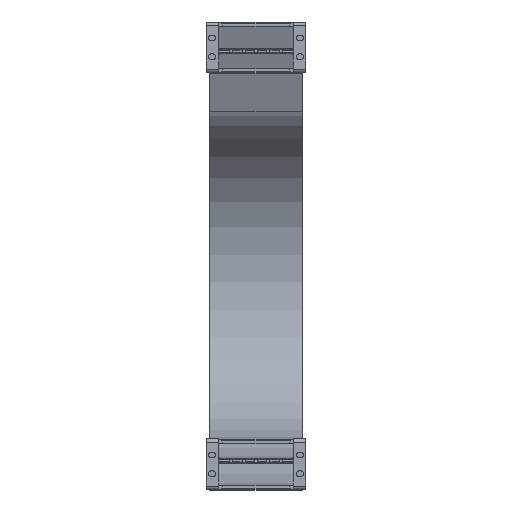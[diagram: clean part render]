
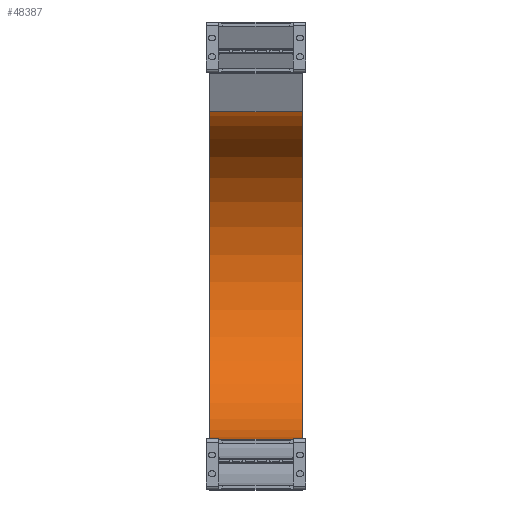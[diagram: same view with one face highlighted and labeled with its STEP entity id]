
A CAD part, top view. The second image highlights one B-rep face of the part: STEP entity #48387.
In plain terms, the highlighted cylindrical face has radius 132.5 mm (diameter 265 mm), a partial arc.
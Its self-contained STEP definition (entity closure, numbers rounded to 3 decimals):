
#47539=DIRECTION('',(-1.,0.,0.));
#47540=VECTOR('',#47539,75.);
#47541=CARTESIAN_POINT('',(37.5,41.,-400.));
#47542=LINE('',#47541,#47540);
#47553=DIRECTION('',(-1.,0.,0.));
#47554=VECTOR('',#47553,75.);
#47555=CARTESIAN_POINT('',(37.5,305.506,-411.43));
#47556=LINE('',#47555,#47554);
#47560=CARTESIAN_POINT('',(37.5,173.5,-400.));
#47561=DIRECTION('',(-1.,0.,0.));
#47562=DIRECTION('',(0.,0.996,-0.086));
#47563=AXIS2_PLACEMENT_3D('',#47560,#47561,#47562);
#47639=CARTESIAN_POINT('',(-37.5,173.5,-400.));
#47640=DIRECTION('',(-1.,0.,0.));
#47641=DIRECTION('',(0.,0.996,-0.086));
#47642=AXIS2_PLACEMENT_3D('',#47639,#47640,#47641);
#47761=CARTESIAN_POINT('',(37.5,305.506,-411.43));
#47762=CARTESIAN_POINT('',(-37.5,305.506,-411.43));
#47763=VERTEX_POINT('',#47761);
#47764=VERTEX_POINT('',#47762);
#47785=CARTESIAN_POINT('',(37.5,41.,-400.));
#47786=CARTESIAN_POINT('',(-37.5,41.,-400.));
#47787=VERTEX_POINT('',#47785);
#47788=VERTEX_POINT('',#47786);
#48373=CARTESIAN_POINT('',(1.,173.5,-400.));
#48374=DIRECTION('',(-1.,0.,0.));
#48375=DIRECTION('',(0.,-0.996,0.086));
#48376=AXIS2_PLACEMENT_3D('',#48373,#48374,#48375);
#48377=CYLINDRICAL_SURFACE('',#48376,132.5);
#48379=ORIENTED_EDGE('',*,*,#48378,.F.);
#48381=ORIENTED_EDGE('',*,*,#48380,.T.);
#48382=ORIENTED_EDGE('',*,*,#48356,.T.);
#48384=ORIENTED_EDGE('',*,*,#48383,.F.);
#48385=EDGE_LOOP('',(#48379,#48381,#48382,#48384));
#48386=FACE_OUTER_BOUND('',#48385,.F.);
#47564=CIRCLE('',#47563,132.5);
#47643=CIRCLE('',#47642,132.5);
#48356=EDGE_CURVE('',#47787,#47788,#47542,.T.);
#48378=EDGE_CURVE('',#47763,#47764,#47556,.T.);
#48380=EDGE_CURVE('',#47763,#47787,#47564,.T.);
#48383=EDGE_CURVE('',#47764,#47788,#47643,.T.);
#48387=ADVANCED_FACE('',(#48386),#48377,.F.);
